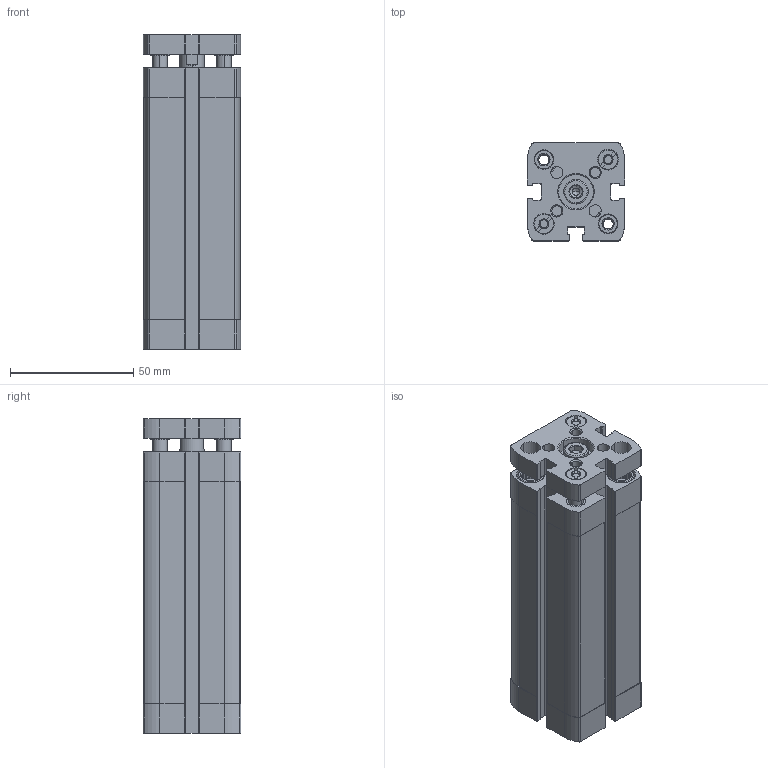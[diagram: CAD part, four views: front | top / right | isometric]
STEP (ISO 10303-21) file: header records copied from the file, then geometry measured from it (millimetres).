
FILE_DESCRIPTION (( 'STEP AP203' ), '1' );
FILE_NAME ('CCNG25-75.STEP', '2017-04-13T18:32:43', ( '' ), ( '' ), 'SwSTEP 2.0', 'SolidWorks 2016', '' );
FILE_SCHEMA (( 'CONFIG_CONTROL_DESIGN' ));
Length unit declared in the file: millimetre
Products named in the file (3): CCNG-25-75--(KS); CCNG25-75; CCNG-25-75---(Z)
Assembly tree (2 placements, depth 2):
  CCNG25-75
    CCNG-25-75---(Z)
    CCNG-25-75--(KS)
Bounding box: 39.5 x 39.5 x 127.5 mm (x, y, z)
Volume: 131840.6 mm3; surface area: 56744.2 mm2
Topology: 2 solids, 6 shells, 598 faces, 1579 edges, 1029 vertices
Faces by surface type: plane 301, cylinder 214, cone 77, bspline 6
Entity records: 19210 total; most frequent: CARTESIAN_POINT 3744, DIRECTION 3271, ORIENTED_EDGE 3154, EDGE_CURVE 1577, AXIS2_PLACEMENT_3D 1230, VERTEX_POINT 1029, LINE 811, VECTOR 811
